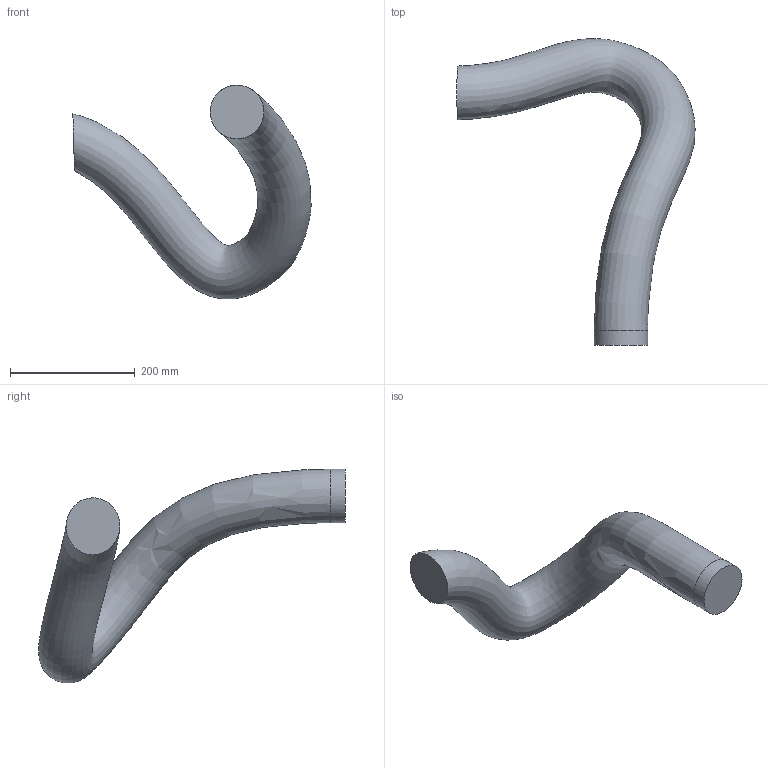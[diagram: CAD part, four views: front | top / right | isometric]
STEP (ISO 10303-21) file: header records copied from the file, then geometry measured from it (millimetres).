
FILE_DESCRIPTION (( 'STEP AP214' ), '1' );
FILE_NAME ('IRB7710_All-285_OC_00_LINK05_CABLE.step', '2026-01-28T09:31:10', ( '' ), ( '' ), 'SwSTEP 2.0', 'SolidWorks 2024', '' );
FILE_SCHEMA (( 'AUTOMOTIVE_DESIGN' ));
Length unit declared in the file: millimetre
Products named in the file (1): IRB7710_All-285_OC_00_LINK05_CABLE
Bounding box: 381.55 x 491.53 x 342.42 mm (x, y, z)
Volume: 5386726.3 mm3; surface area: 262923.2 mm2
Topology: 1 solids, 1 shells, 4 faces, 6 edges, 4 vertices
Faces by surface type: plane 2, bspline 1, cylinder 1
Full cylindrical faces by diameter (mm): 86 x1
Entity records: 47560 total; most frequent: CARTESIAN_POINT 47483, DIRECTION 10, ORIENTED_EDGE 6, FACE_OUTER_BOUND 6, EDGE_LOOP 6, AXIS2_PLACEMENT_3D 5, ADVANCED_FACE 4, EDGE_CURVE 3
